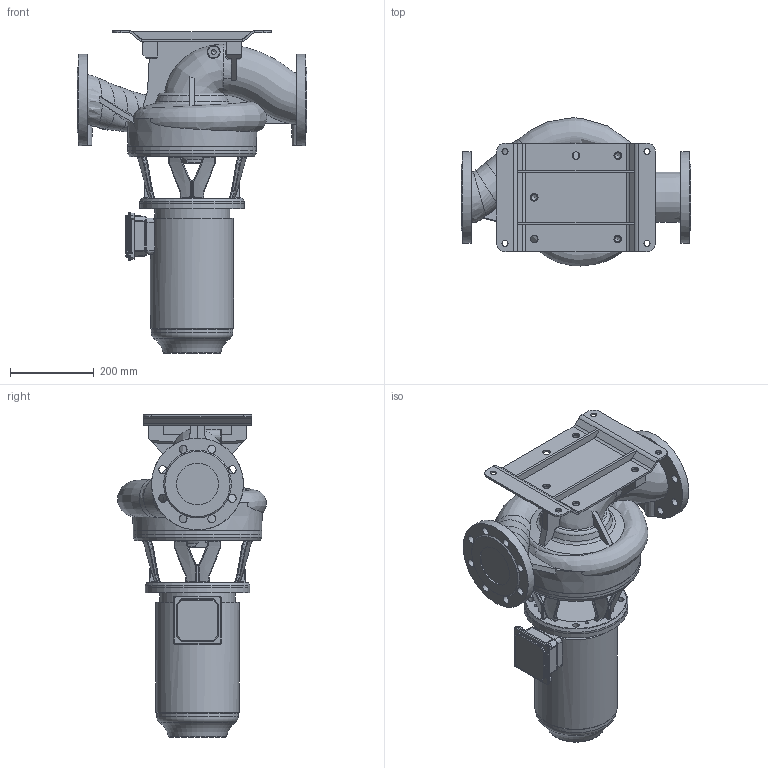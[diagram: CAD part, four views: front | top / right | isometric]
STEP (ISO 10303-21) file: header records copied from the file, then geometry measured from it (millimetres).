
FILE_DESCRIPTION (( 'STEP AP203' ), '1' );
FILE_NAME ('KI100-220_4_3kW.STEP', '2024-07-30T07:39:51', ( '' ), ( '' ), 'SwSTEP 2.0', 'SolidWorks 2023', '' );
FILE_SCHEMA (( 'CONFIG_CONTROL_DESIGN' ));
Length unit declared in the file: millimetre
Products named in the file (11): 230572; 230181; 230573; 230179; 230566; 230180; HMA4_100L_2-4_B5_solid; 230565; 220527; KI100-220_4_3kW; 220528
Assembly tree (11 placements, depth 3):
  KI100-220_4_3kW
    230566
      230565
    230573
      230572
    220528
      220527
    230181
      230179
      230180  x2
    HMA4_100L_2-4_B5_solid
Bounding box: 550 x 354.71 x 772.45 mm (x, y, z)
Volume: 30987910.8 mm3; surface area: 1684028.5 mm2
Topology: 7 solids, 7 shells, 966 faces, 2517 edges, 1533 vertices
Faces by surface type: bspline 313, plane 264, cylinder 247, torus 69, cone 65, sphere 8
Full cylindrical faces by diameter (mm): 6 x2, 6.8 x8, 10 x4, 10.2 x8, 11.445 x1, 11.8 x3, 14 x19, 14.5 x8, 15 x4, 18 x5, 19 x16, 100 x2, 180 x2, 195 x1, 199 x1, 220 x2, 225 x1, 243 x1, 246 x1, 250 x2, 255 x2, 308 x2
Entity records: 67371 total; most frequent: CARTESIAN_POINT 46251, ORIENTED_EDGE 4508, DIRECTION 3470, EDGE_CURVE 2254, VERTEX_POINT 1438, AXIS2_PLACEMENT_3D 1436, EDGE_LOOP 1222, FACE_OUTER_BOUND 1062
